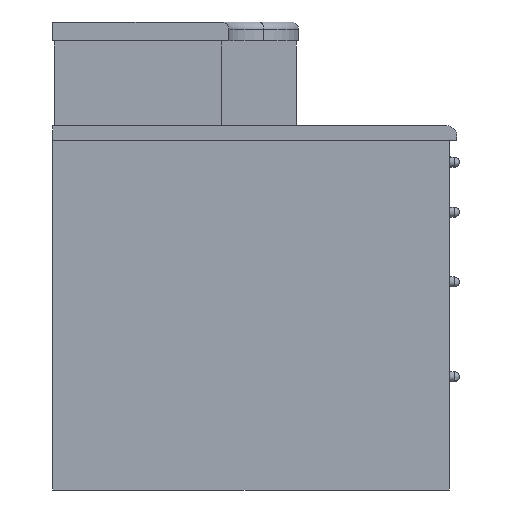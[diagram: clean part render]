
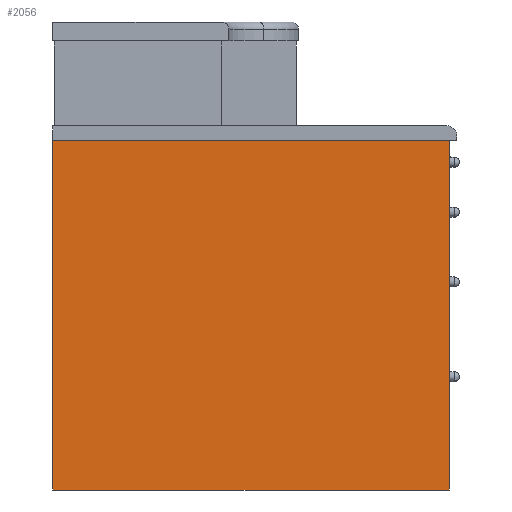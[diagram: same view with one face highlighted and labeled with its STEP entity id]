
A CAD part, left-side view. The second image highlights one B-rep face of the part: STEP entity #2056.
In plain terms, the highlighted planar face has unit normal (-1, 0, 0).
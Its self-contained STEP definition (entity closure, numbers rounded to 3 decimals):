
#243=FACE_OUTER_BOUND('',#394,.T.);
#394=EDGE_LOOP('',(#1739,#1740,#1741,#1742));
#563=LINE('',#3531,#760);
#564=LINE('',#3533,#761);
#565=LINE('',#3535,#762);
#566=LINE('',#3536,#763);
#760=VECTOR('',#2769,795.);
#761=VECTOR('',#2770,700.);
#762=VECTOR('',#2771,795.);
#763=VECTOR('',#2772,700.);
#1025=VERTEX_POINT('',#3529);
#1026=VERTEX_POINT('',#3530);
#1027=VERTEX_POINT('',#3532);
#1028=VERTEX_POINT('',#3534);
#1274=EDGE_CURVE('',#1025,#1026,#563,.T.);
#1275=EDGE_CURVE('',#1027,#1025,#564,.T.);
#1276=EDGE_CURVE('',#1028,#1027,#565,.T.);
#1277=EDGE_CURVE('',#1028,#1026,#566,.T.);
#1739=ORIENTED_EDGE('',*,*,#1274,.F.);
#1740=ORIENTED_EDGE('',*,*,#1275,.F.);
#1741=ORIENTED_EDGE('',*,*,#1276,.F.);
#1742=ORIENTED_EDGE('',*,*,#1277,.T.);
#1930=PLANE('',#2261);
#2056=ADVANCED_FACE('',(#243),#1930,.T.);
#2261=AXIS2_PLACEMENT_3D('',#3528,#2767,#2768);
#2767=DIRECTION('center_axis',(-1.,0.,0.));
#2768=DIRECTION('ref_axis',(0.,1.,0.));
#2769=DIRECTION('',(0.,1.,0.));
#2770=DIRECTION('',(0.,0.,-1.));
#2771=DIRECTION('',(0.,-1.,0.));
#2772=DIRECTION('',(0.,0.,-1.));
#3528=CARTESIAN_POINT('Origin',(-705.5,-390.,700.));
#3529=CARTESIAN_POINT('',(-705.5,-390.,0.));
#3530=CARTESIAN_POINT('',(-705.5,405.,0.));
#3531=CARTESIAN_POINT('',(-705.5,-191.25,0.));
#3532=CARTESIAN_POINT('',(-705.5,-390.,700.));
#3533=CARTESIAN_POINT('',(-705.5,-390.,700.));
#3534=CARTESIAN_POINT('',(-705.5,405.,700.));
#3535=CARTESIAN_POINT('',(-705.5,-195.,700.));
#3536=CARTESIAN_POINT('',(-705.5,405.,700.));
